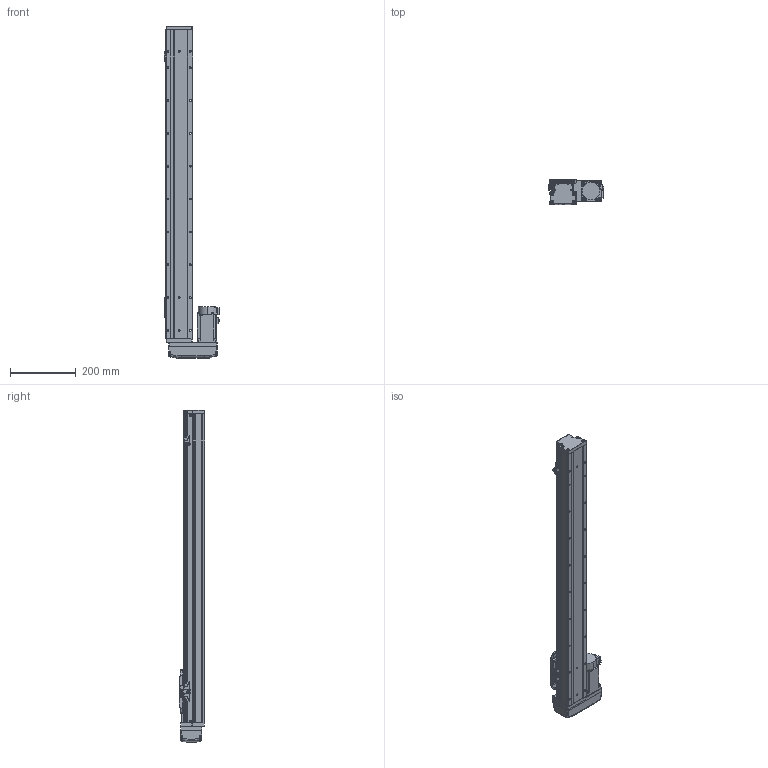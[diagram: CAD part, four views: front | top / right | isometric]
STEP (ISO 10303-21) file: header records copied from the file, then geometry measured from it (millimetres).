
FILE_DESCRIPTION (( 'STEP AP203' ), '1' );
FILE_NAME ('GTH8-750-BR-M20-C4.step', '2022-09-23T01:11:24', ( '微软用户' ), ( '微软中国' ), 'SwSTEP 2.0', 'SolidWorks 2020', '' );
FILE_SCHEMA (( 'CONFIG_CONTROL_DESIGN' ));
Length unit declared in the file: millimetre
Products named in the file (18): GTH80-003; GBT 70.1-M4×16; CTHA86-015-1_CTHA86-015-2; GTH80-004; GTH80-028; CTHA86-033_M40B; GTH80-006; GTH50-024; GTH8-750-BR-M20-C4; GTH80-013; GTH50-023; GBT 70.3-M3℅6; GBT96.1-2002 3×0.8; GTH80-022; BTH-M3X5X6; GTH80-001_750; GBT 70.1-M3℅6; hg-kn43j_-s100_
Assembly tree (57 placements, depth 2):
  GTH8-750-BR-M20-C4
    GTH80-001_750
    GTH80-003
    GTH80-004
    GTH80-006
    GTH80-013
    GBT 70.3-M3℅6  x4
    GTH80-022
    GBT 70.1-M3℅6  x14
    GBT 70.1-M4×16  x8
    GTH80-028  x2
    GTH50-024  x3
    GTH50-023  x3
    GBT96.1-2002 3×0.8  x6
    BTH-M3X5X6  x8
    hg-kn43j_-s100_
    CTHA86-015-1_CTHA86-015-2
    CTHA86-033_M40B
Bounding box: 169.7 x 78 x 1011 mm (x, y, z)
Volume: 5058425.4 mm3; surface area: 513963.7 mm2
Topology: 59 solids, 59 shells, 2248 faces, 5199 edges, 3187 vertices
Faces by surface type: plane 1187, cylinder 619, cone 260, torus 166, bspline 8, sphere 8
Entity records: 41218 total; most frequent: CARTESIAN_POINT 7241, DIRECTION 6705, ORIENTED_EDGE 6216, EDGE_CURVE 3108, AXIS2_PLACEMENT_3D 2349, LINE 2007, VECTOR 2007, VERTEX_POINT 1962
